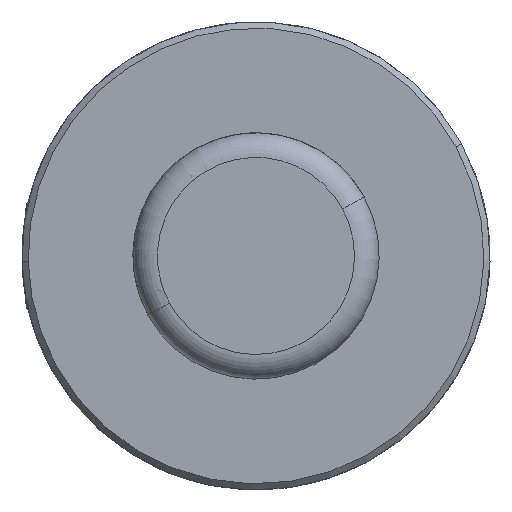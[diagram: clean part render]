
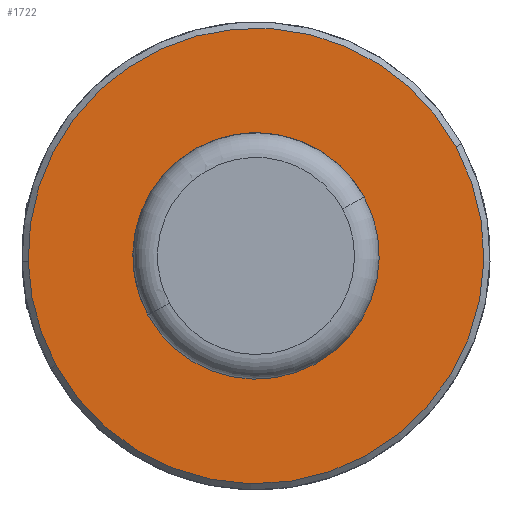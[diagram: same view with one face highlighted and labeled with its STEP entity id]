
A CAD part, front view. The second image highlights one B-rep face of the part: STEP entity #1722.
In plain terms, the highlighted planar face has unit normal (0, -1, 0) as drawn and (0, 0, 1) by its records, which use the part's own axes.
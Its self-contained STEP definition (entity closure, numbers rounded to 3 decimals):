
#1648=CARTESIAN_POINT('Vertex',(18.494,0.46,148.)) ;
#1655=CARTESIAN_POINT('Vertex',(16.235,8.869,148.)) ;
#1658=CARTESIAN_POINT('Axis2P3D Location',(0.,0.,148.)) ;
#1675=CARTESIAN_POINT('Axis2P3D Location',(0.,0.,148.)) ;
#1679=CARTESIAN_POINT('Vertex',(-16.235,-8.869,148.)) ;
#1700=CARTESIAN_POINT('Axis2P3D Location',(0.,0.,148.)) ;
#1712=CARTESIAN_POINT('Axis2P3D Location',(19.,0.,148.)) ;
#1659=DIRECTION('Axis2P3D Direction',(0.,0.,-1.)) ;
#1676=DIRECTION('Axis2P3D Direction',(0.,0.,-1.)) ;
#1701=DIRECTION('Axis2P3D Direction',(0.,0.,-1.)) ;
#1713=DIRECTION('Axis2P3D Direction',(0.,0.,1.)) ;
#1714=DIRECTION('Axis2P3D XDirection',(1.,0.,0.)) ;
#1660=AXIS2_PLACEMENT_3D('Circle Axis2P3D',#1658,#1659,$) ;
#1677=AXIS2_PLACEMENT_3D('Circle Axis2P3D',#1675,#1676,$) ;
#1702=AXIS2_PLACEMENT_3D('Circle Axis2P3D',#1700,#1701,$) ;
#1715=AXIS2_PLACEMENT_3D('Plane Axis2P3D',#1712,#1713,#1714) ;
#1718=ORIENTED_EDGE('',*,*,#1681,.T.) ;
#1719=ORIENTED_EDGE('',*,*,#1662,.T.) ;
#1720=ORIENTED_EDGE('',*,*,#1704,.T.) ;
#1722=ADVANCED_FACE('',(#1721),#1716,.T.) ;
#1661=CIRCLE('generated circle',#1660,18.5) ;
#1678=CIRCLE('generated circle',#1677,18.5) ;
#1703=CIRCLE('generated circle',#1702,18.5) ;
#1662=EDGE_CURVE('',#1649,#1656,#1661,.F.) ;
#1681=EDGE_CURVE('',#1680,#1649,#1678,.F.) ;
#1704=EDGE_CURVE('',#1656,#1680,#1703,.F.) ;
#1717=EDGE_LOOP('',(#1718,#1719,#1720)) ;
#1721=FACE_OUTER_BOUND('',#1717,.T.) ;
#1716=PLANE('Plane',#1715) ;
#1649=VERTEX_POINT('',#1648) ;
#1656=VERTEX_POINT('',#1655) ;
#1680=VERTEX_POINT('',#1679) ;
